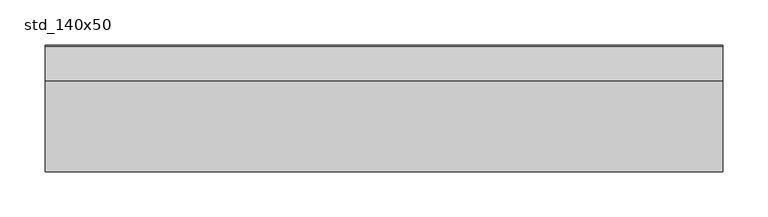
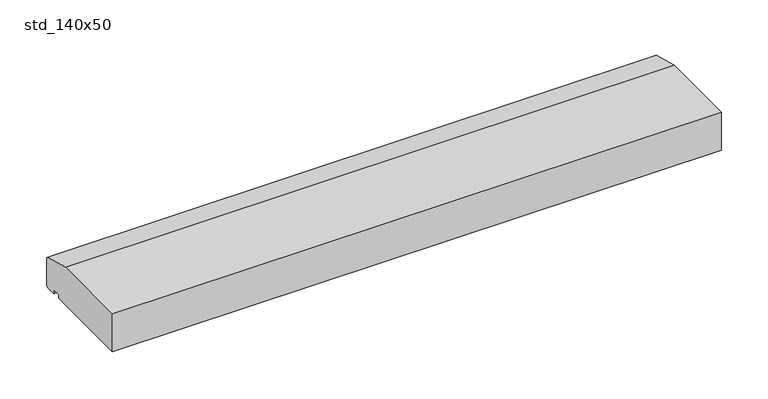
"""IFC4 building model written with IfcOpenShell, lengths in millimetres: proxy geometry, 400_35_NS_spekband_140x50 : std_140x50."""

from ifc_helpers import new_model, si_unit, frame, origin, place, context, project, spatial, polyline, outline, extrude, source, transform, mapped, element, save


def std_140x50_cf374a27(model_context):
    return source(origin(), model_context, "Body", "SweptSolid", [
        extrude(outline(polyline([(140.0, 2.0), (138.0, 0.0), (125.0, 0.0), (125.0, 5.0), (115.0, 5.0), (115.0, 0.0), (0.0, 0.0), (0.0, 50.0), (100.0, 50.0), (138.0, 40.0), (140.0, 38.0), (140.0, 2.0)])), frame((-375.0, 0.0, 0.0), z_axis=(1.0, 0.0, 0.0), x_axis=(0.0, 1.0, 0.0)), (0.0, 0.0, 1.0), 750.0),
    ])


if __name__ == "__main__":
    model = new_model("IFC4")
    model_context = context("Model", 3, world=origin())
    ifc_project = project(units=[si_unit("LENGTHUNIT", "METRE", prefix="MILLI")], contexts=[model_context])
    site = spatial("IfcSite", under=ifc_project)
    building = spatial("IfcBuilding", under=site)
    placement = place(None, origin())
    std_140x50_shape = std_140x50_cf374a27(model_context)
    element("IfcBuildingElementProxy", 1, Name="400_35_NS_spekband_140x50 : std_140x50", ObjectType="400_35_NS_spekband_140x50 : std_140x50", at=placement, inside=building, context=model_context, shape_type="MappedRepresentation", body=[
        mapped(std_140x50_shape, transform((0.0, 0.0, 0.0), x_axis=(1.0, 0.0, 0.0), y_axis=(0.0, 1.0, 0.0), z_axis=(0.0, 0.0, 1.0))),
    ])
    save(model, "model.ifc")
